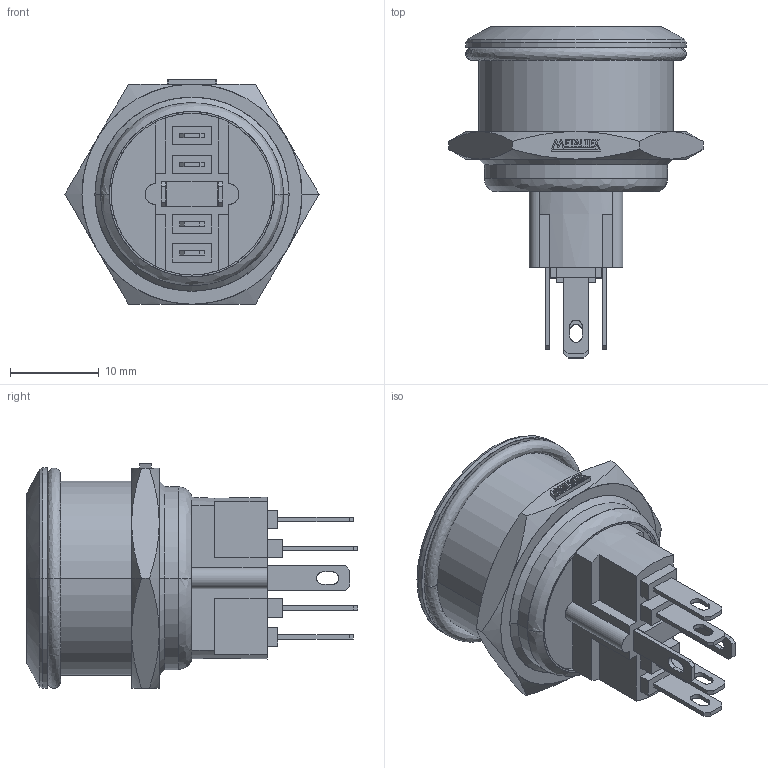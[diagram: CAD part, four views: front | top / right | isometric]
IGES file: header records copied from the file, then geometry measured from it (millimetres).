
Start section: SolidWorks IGES file using analytic representation for surfaces
Global section: file name: D:\X - Arquivos\PROEX\Empresas\P11 - METALTEX\01 - Produtos\IGES\Segunda remessa\AV22I.IGS; native system: SolidWorks 2012; preprocessor: SolidWorks 2012; author: Usuario; date: 180117.122806; units: millimetre
Bounding box: 28.6 x 37.35 x 25.28 mm (x, y, z)
Surface area: 3904 mm2 (no closed solid volume)
Topology: 0 solids, 0 shells, 271 faces, 2302 edges, 2302 vertices
Faces by surface type: bspline 213, revolution 58
